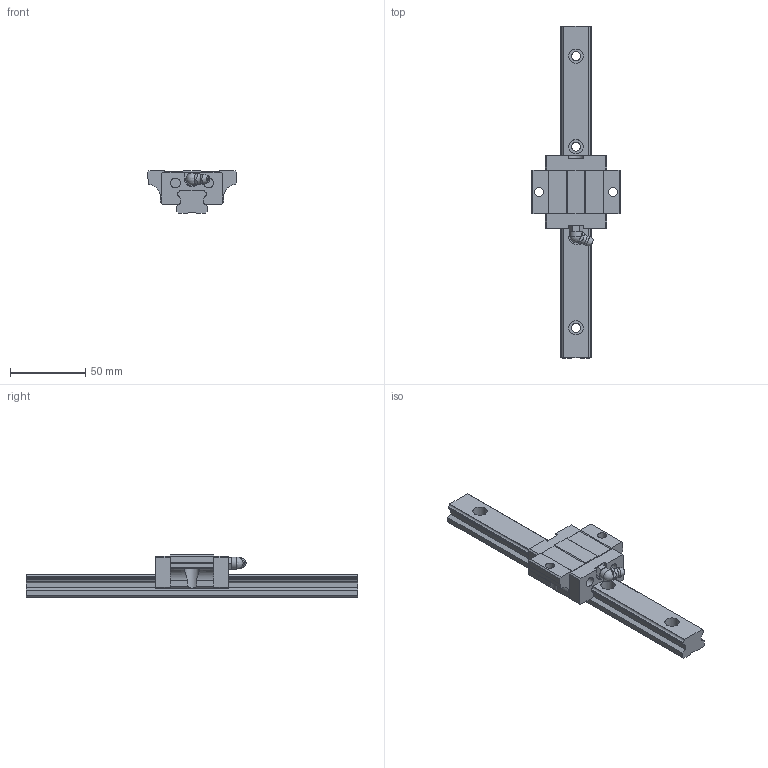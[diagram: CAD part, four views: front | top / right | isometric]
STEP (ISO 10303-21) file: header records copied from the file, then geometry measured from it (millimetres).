
FILE_DESCRIPTION(/* description */ (''),/* implementation_level */ '2;1');
FILE_NAME(/* name */ 'MSB20TE',/* time_stamp */ '2004-05-24T10:16:12+08:00',/* author */ (''),/* organization */ (''),/* preprocessor_version */ 'ST-DEVELOPER v8',/* originating_system */ '',/* authorisation */ '');
FILE_SCHEMA (('CONFIG_CONTROL_DESIGN'));
Length unit declared in the file: millimetre
Products named in the file (1): zirc812C001u
Bounding box: 59 x 220 x 28 mm (x, y, z)
Volume: 92663.6 mm3; surface area: 29473.5 mm2
Topology: 3 solids, 3 shells, 177 faces, 485 edges, 320 vertices
Faces by surface type: plane 133, cylinder 33, torus 7, sphere 2, cone 1, bspline 1
Full cylindrical faces by diameter (mm): 6 x6, 6.5 x6, 8 x1, 9.5 x4
Entity records: 5607 total; most frequent: CARTESIAN_POINT 1098, ORIENTED_EDGE 910, DIRECTION 886, EDGE_CURVE 455, LINE 334, VECTOR 334, VERTEX_POINT 312, AXIS2_PLACEMENT_3D 276
